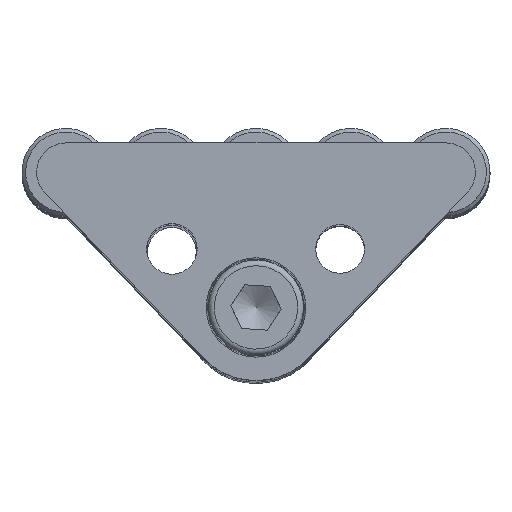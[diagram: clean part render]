
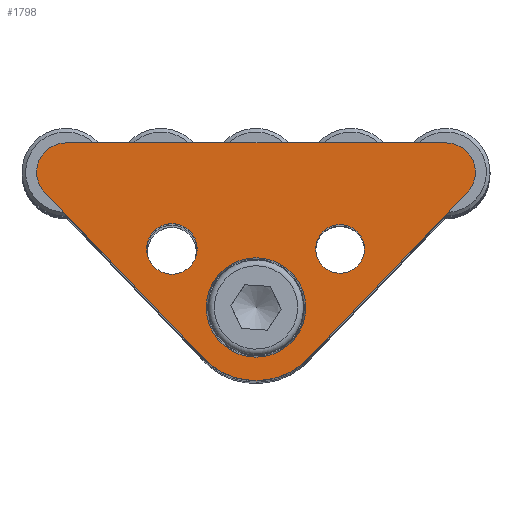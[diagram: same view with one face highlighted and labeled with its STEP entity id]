
A CAD part, top view. The second image highlights one B-rep face of the part: STEP entity #1798.
In plain terms, the highlighted planar face has unit normal (0, 0, 1).
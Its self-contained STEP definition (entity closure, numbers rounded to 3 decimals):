
#602=FACE_BOUND('',#788,.T.);
#603=FACE_BOUND('',#789,.T.);
#604=FACE_BOUND('',#790,.T.);
#641=PLANE('',#2098);
#691=FACE_OUTER_BOUND('',#787,.T.);
#787=EDGE_LOOP('',(#1498,#1499,#1500,#1501,#1502,#1503));
#788=EDGE_LOOP('',(#1504));
#789=EDGE_LOOP('',(#1505));
#790=EDGE_LOOP('',(#1506));
#893=LINE('',#3146,#972);
#896=LINE('',#3154,#975);
#900=LINE('',#3162,#979);
#972=VECTOR('',#2461,10.);
#975=VECTOR('',#2470,10.);
#979=VECTOR('',#2480,10.);
#1037=CIRCLE('',#2051,6.8);
#1040=CIRCLE('',#2056,3.456);
#1042=CIRCLE('',#2059,3.324);
#1059=CIRCLE('',#2090,4.);
#1060=CIRCLE('',#2093,4.);
#1061=CIRCLE('',#2096,10.);
#1125=VERTEX_POINT('',#3063);
#1128=VERTEX_POINT('',#3072);
#1130=VERTEX_POINT('',#3078);
#1150=VERTEX_POINT('',#3139);
#1151=VERTEX_POINT('',#3140);
#1152=VERTEX_POINT('',#3145);
#1153=VERTEX_POINT('',#3149);
#1154=VERTEX_POINT('',#3153);
#1155=VERTEX_POINT('',#3157);
#1239=EDGE_CURVE('',#1125,#1125,#1037,.T.);
#1243=EDGE_CURVE('',#1128,#1128,#1040,.T.);
#1246=EDGE_CURVE('',#1130,#1130,#1042,.T.);
#1273=EDGE_CURVE('',#1150,#1151,#1059,.T.);
#1276=EDGE_CURVE('',#1151,#1152,#893,.T.);
#1278=EDGE_CURVE('',#1152,#1153,#1060,.T.);
#1280=EDGE_CURVE('',#1153,#1154,#896,.T.);
#1282=EDGE_CURVE('',#1154,#1155,#1061,.T.);
#1285=EDGE_CURVE('',#1155,#1150,#900,.T.);
#1498=ORIENTED_EDGE('',*,*,#1273,.F.);
#1499=ORIENTED_EDGE('',*,*,#1285,.F.);
#1500=ORIENTED_EDGE('',*,*,#1282,.F.);
#1501=ORIENTED_EDGE('',*,*,#1280,.F.);
#1502=ORIENTED_EDGE('',*,*,#1278,.F.);
#1503=ORIENTED_EDGE('',*,*,#1276,.F.);
#1504=ORIENTED_EDGE('',*,*,#1239,.T.);
#1505=ORIENTED_EDGE('',*,*,#1243,.T.);
#1506=ORIENTED_EDGE('',*,*,#1246,.T.);
#1798=ADVANCED_FACE('',(#691,#602,#603,#604),#641,.T.);
#2051=AXIS2_PLACEMENT_3D('',#3064,#2365,#2366);
#2056=AXIS2_PLACEMENT_3D('',#3073,#2376,#2377);
#2059=AXIS2_PLACEMENT_3D('',#3079,#2383,#2384);
#2090=AXIS2_PLACEMENT_3D('',#3141,#2455,#2456);
#2093=AXIS2_PLACEMENT_3D('',#3150,#2465,#2466);
#2096=AXIS2_PLACEMENT_3D('',#3158,#2474,#2475);
#2098=AXIS2_PLACEMENT_3D('',#3163,#2481,#2482);
#2365=DIRECTION('center_axis',(0.,0.,
-1.));
#2366=DIRECTION('ref_axis',(-1.,0.,0.));
#2376=DIRECTION('center_axis',(0.,0.,
-1.));
#2377=DIRECTION('ref_axis',(1.,0.,0.));
#2383=DIRECTION('center_axis',(0.,0.,
-1.));
#2384=DIRECTION('ref_axis',(1.,0.,0.));
#2455=DIRECTION('center_axis',(0.,0.,-1.));
#2456=DIRECTION('ref_axis',(0.,-1.,0.));
#2461=DIRECTION('',(1.,0.,0.));
#2465=DIRECTION('center_axis',(0.,0.,-1.));
#2466=DIRECTION('ref_axis',(-0.723,0.691,0.));
#2470=DIRECTION('',(-0.691,-0.723,0.));
#2474=DIRECTION('center_axis',(0.,0.,-1.));
#2475=DIRECTION('ref_axis',(0.723,0.691,0.));
#2480=DIRECTION('',(-0.691,0.723,0.));
#2481=DIRECTION('center_axis',(0.,0.,
1.));
#2482=DIRECTION('ref_axis',(1.,0.,0.));
#3063=CARTESIAN_POINT('',(5.8,-7.5,4.));
#3064=CARTESIAN_POINT('Origin',(-1.,-7.5,4.));
#3072=CARTESIAN_POINT('',(-15.956,0.5,4.));
#3073=CARTESIAN_POINT('Origin',(-12.5,0.5,4.));
#3078=CARTESIAN_POINT('',(7.177,0.5,4.));
#3079=CARTESIAN_POINT('Origin',(10.5,0.5,4.));
#3139=CARTESIAN_POINT('',(-29.89,8.235,4.));
#3140=CARTESIAN_POINT('',(-27.,15.,4.));
#3141=CARTESIAN_POINT('Origin',(-27.,11.,4.));
#3145=CARTESIAN_POINT('',(25.,15.,4.));
#3146=CARTESIAN_POINT('',(-27.,15.,4.));
#3149=CARTESIAN_POINT('',(27.89,8.235,4.));
#3150=CARTESIAN_POINT('Origin',(25.,11.,4.));
#3153=CARTESIAN_POINT('',(6.226,-14.412,4.));
#3154=CARTESIAN_POINT('',(27.89,8.235,4.));
#3157=CARTESIAN_POINT('',(-8.226,-14.412,4.));
#3158=CARTESIAN_POINT('Origin',(-1.,-7.5,4.));
#3162=CARTESIAN_POINT('',(-8.226,-14.412,4.));
#3163=CARTESIAN_POINT('Origin',(-1.,3.688,4.));
